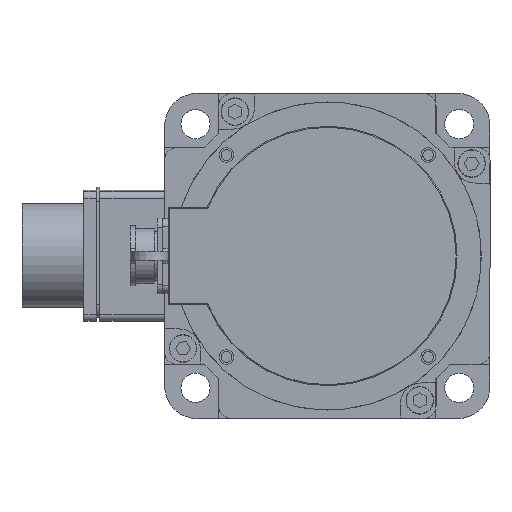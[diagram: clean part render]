
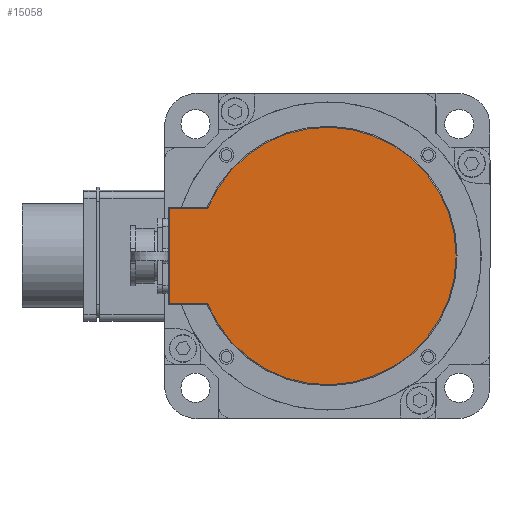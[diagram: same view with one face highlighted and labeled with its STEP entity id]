
A CAD part, left-side view. The second image highlights one B-rep face of the part: STEP entity #15058.
In plain terms, the highlighted planar face has unit normal (-1, 0, 0).
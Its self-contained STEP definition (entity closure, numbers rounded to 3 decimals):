
#231 = CARTESIAN_POINT ( 'NONE',  ( -203.5, 0., 0. ) ) ;
#401 = CARTESIAN_POINT ( 'NONE',  ( -203.5, 0., 0. ) ) ;
#1262 = VERTEX_POINT ( 'NONE', #16356 ) ;
#2391 = VERTEX_POINT ( 'NONE', #2972 ) ;
#2482 = DIRECTION ( 'NONE',  ( 0., 0., 1. ) ) ;
#2972 = CARTESIAN_POINT ( 'NONE',  ( -203.5, 48.781, -14.7 ) ) ;
#4788 = VECTOR ( 'NONE', #20848, 1000. ) ;
#6401 = PLANE ( 'NONE',  #10269 ) ;
#7783 = CARTESIAN_POINT ( 'NONE',  ( -203.5, 48.781, -15. ) ) ;
#8368 = EDGE_CURVE ( 'NONE', #8421, #1262, #10874, .T. ) ;
#8421 = VERTEX_POINT ( 'NONE', #11110 ) ;
#8639 = CARTESIAN_POINT ( 'NONE',  ( -203.5, 37.081, -14.7 ) ) ;
#9979 = CARTESIAN_POINT ( 'NONE',  ( -203.5, 49.081, 14.7 ) ) ;
#10186 = LINE ( 'NONE', #7783, #24478 ) ;
#10269 = AXIS2_PLACEMENT_3D ( 'NONE', #401, #14683, #2482 ) ;
#10874 = CIRCLE ( 'NONE', #20879, 39.7 ) ;
#11053 = ORIENTED_EDGE ( 'NONE', *, *, #19212, .T. ) ;
#11110 = CARTESIAN_POINT ( 'NONE',  ( -203.5, 36.878, -14.7 ) ) ;
#13703 = LINE ( 'NONE', #8639, #4788 ) ;
#14051 = FACE_OUTER_BOUND ( 'NONE', #24497, .T. ) ;
#14683 = DIRECTION ( 'NONE',  ( -1., 0., 0. ) ) ;
#15058 = ADVANCED_FACE ( 'NONE', ( #14051 ), #6401, .T. ) ;
#15596 = ORIENTED_EDGE ( 'NONE', *, *, #16735, .T. ) ;
#16356 = CARTESIAN_POINT ( 'NONE',  ( -203.5, 36.878, 14.7 ) ) ;
#16735 = EDGE_CURVE ( 'NONE', #2391, #8421, #13703, .T. ) ;
#17773 = LINE ( 'NONE', #9979, #22542 ) ;
#19212 = EDGE_CURVE ( 'NONE', #1262, #22425, #17773, .T. ) ;
#20013 = DIRECTION ( 'NONE',  ( 0., 0., -1. ) ) ;
#20241 = DIRECTION ( 'NONE',  ( 0., 1., 0. ) ) ;
#20635 = ORIENTED_EDGE ( 'NONE', *, *, #8368, .T. ) ;
#20848 = DIRECTION ( 'NONE',  ( 0., -1., 0. ) ) ;
#20879 = AXIS2_PLACEMENT_3D ( 'NONE', #231, #21696, #26109 ) ;
#21696 = DIRECTION ( 'NONE',  ( -1., 0., 0. ) ) ;
#21908 = ORIENTED_EDGE ( 'NONE', *, *, #25257, .T. ) ;
#22425 = VERTEX_POINT ( 'NONE', #22988 ) ;
#22542 = VECTOR ( 'NONE', #20241, 1000. ) ;
#22988 = CARTESIAN_POINT ( 'NONE',  ( -203.5, 48.781, 14.7 ) ) ;
#24478 = VECTOR ( 'NONE', #20013, 1000. ) ;
#24497 = EDGE_LOOP ( 'NONE', ( #21908, #15596, #20635, #11053 ) ) ;
#25257 = EDGE_CURVE ( 'NONE', #22425, #2391, #10186, .T. ) ;
#26109 = DIRECTION ( 'NONE',  ( 0., 0., 1. ) ) ;
